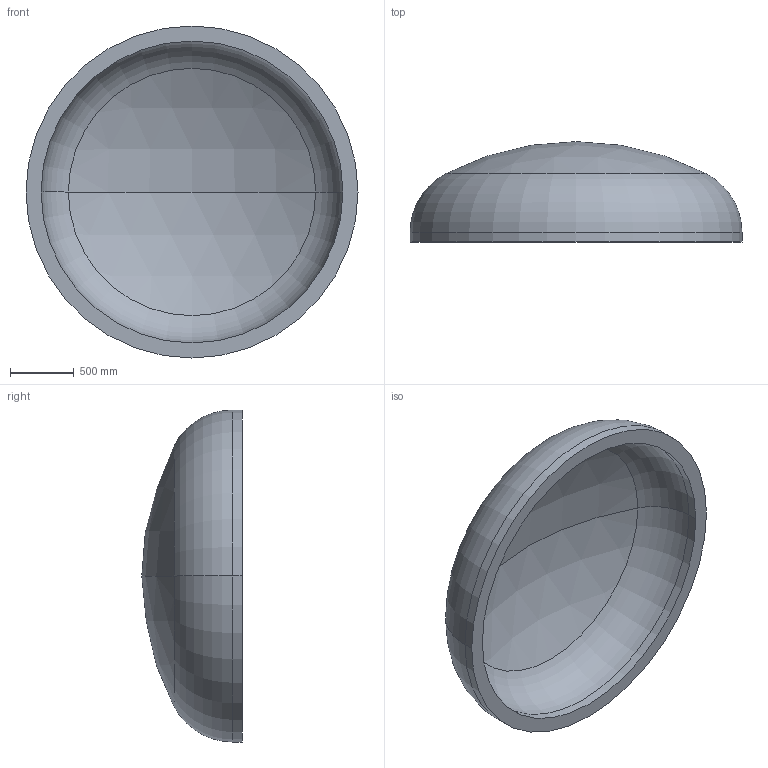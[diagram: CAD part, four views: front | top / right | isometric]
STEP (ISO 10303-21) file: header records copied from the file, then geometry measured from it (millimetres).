
FILE_DESCRIPTION (( 'STEP AP203' ), '1' );
FILE_NAME ('DIN 28013 Korbbogenform_-_Boden DIN 28013 - 2600 x 75 - I - s=118.step', '2016-07-01T16:36:15', ( '' ), ( '' ), 'SwSTEP 2.0', 'SolidWorks 2013', '' );
FILE_SCHEMA (( 'CONFIG_CONTROL_DESIGN' ));
Length unit declared in the file: millimetre
Products named in the file (1): DIN 28013 Korbbogenform_-_Boden DIN 28013 - 2600 x 75 - I - s=118
Bounding box: 2600 x 786.1 x 2600 mm (x, y, z)
Volume: 887190413.1 mm3; surface area: 15986380.6 mm2
Topology: 1 solids, 1 shells, 13 faces, 24 edges, 14 vertices
Faces by surface type: torus 4, cylinder 4, sphere 4, plane 1
Entity records: 407 total; most frequent: DIRECTION 72, CARTESIAN_POINT 52, ORIENTED_EDGE 48, AXIS2_PLACEMENT_3D 34, EDGE_CURVE 24, CIRCLE 20, EDGE_LOOP 14, VERTEX_POINT 14
